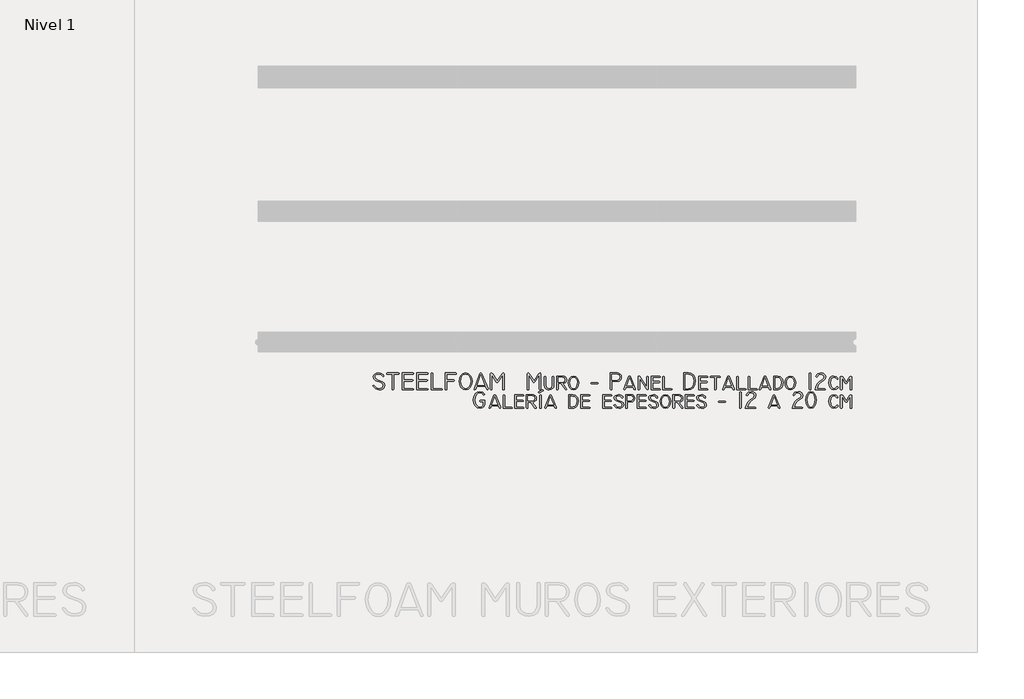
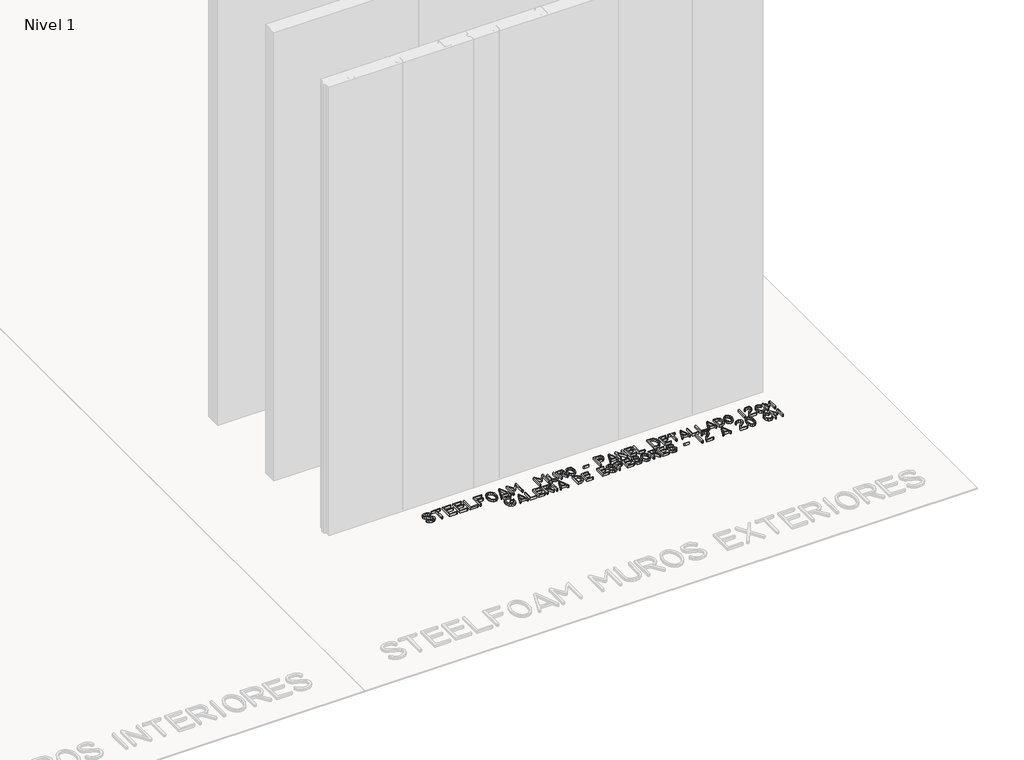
# One storey, part 5 of 6: 1 proxy.
"""IFC4 building model written with IfcOpenShell, lengths in millimetres."""

from ifc_helpers import new_model, si_unit, origin, origin_with_axes, place, context, project, spatial, polyline, outline, extrude, element, save

model = new_model("IFC4")

# Units and contexts
model_context = context("Model", 3, world=origin())
ifc_project = project(units=[si_unit("LENGTHUNIT", "METRE", prefix="MILLI")], contexts=[model_context])

# Site, building, storey
site = spatial("IfcSite", under=ifc_project)
building = spatial("IfcBuilding", under=site)
storey = spatial("IfcBuildingStorey", under=building, Name="Nivel 1", Elevation=0.0)

# Proxy
placement = place(None, origin())
element("IfcBuildingElementProxy", 1, Name="10cm", ObjectType="10cm", at=placement, inside=storey, context=model_context, shape_type="SweptSolid", body=[
    extrude(outline(polyline([(8667.4857479, -8169.8087474), (8665.1864436, -8182.0004074), (8658.2885307, -8190.708736), (8646.7920092, -8195.9337332), (8630.696879, -8197.6753989), (8611.1780007, -8191.9676242), (8596.1568978, -8176.3598549), (8595.5213426, -8173.9643007), (8600.1413401, -8170.6887469), (8603.5635604, -8172.0820795), (8615.7735538, -8185.3187389), (8630.5013236, -8189.8531809), (8642.5753448, -8188.5774872), (8651.1996457, -8184.7504059), (8656.3742262, -8178.3719372), (8658.0990864, -8169.4420809), (8654.4079772, -8159.4015308), (8643.3346499, -8151.6709795), (8613.7324438, -8140.6709854), (8601.2474506, -8131.1743239), (8597.0857862, -8118.4265531), (8599.045924, -8108.3737808), (8604.9263375, -8101.0221181), (8614.7270266, -8096.3715651), (8628.4479914, -8094.4221217), (8639.1913189, -8094.6421216), (8649.8124242, -8099.3110079), (8659.7857521, -8106.6504484), (8663.1101947, -8115.1265549), (8658.6857527, -8119.1354416), (8654.1879774, -8115.98211), (8644.8990935, -8105.6298934), (8629.1568799, -8102.2443397), (8612.1435558, -8106.8826705), (8607.8902248, -8111.8739178), (8606.4724478, -8118.646553), (8610.3102234, -8128.3265477), (8621.8235505, -8135.8554325), (8651.3524234, -8147.0754264), (8663.4524168, -8157.0243099), (8667.4857479, -8169.8087474)])), origin_with_axes(), (0.0, 0.0, 1.0), 20.0),
    extrude(outline(polyline([(8751.3790356, -8102.2443397), (8722.2412737, -8102.2443397), (8722.2412737, -8192.9820681), (8721.067941, -8196.5020662), (8717.5479429, -8197.6753989), (8714.0279448, -8196.5020662), (8712.8546121, -8192.9820681), (8712.8546121, -8102.2443397), (8684.4257387, -8102.2443397), (8681.1074072, -8101.071007), (8680.0012967, -8097.5510089), (8684.4746276, -8094.4221217), (8751.4034801, -8094.4221217), (8755.876811, -8097.5510089), (8754.7523671, -8101.071007), (8751.3790356, -8102.2443397)])), origin_with_axes(), (0.0, 0.0, 1.0), 20.0),
    extrude(outline(polyline([(8839.5745432, -8197.6753989), (8775.4323559, -8197.6753989), (8775.4323559, -8094.4221217), (8839.5745432, -8094.4221217), (8844.0478741, -8097.5510089), (8842.9356525, -8101.071007), (8839.5989877, -8102.2443397), (8784.8190175, -8102.2443397), (8784.8190175, -8136.6620987), (8836.3967672, -8136.6620987), (8840.8456537, -8139.7909859), (8839.733432, -8143.310984), (8836.3967672, -8144.4843167), (8784.8190175, -8144.4843167), (8784.8190175, -8189.8531809), (8839.5989877, -8189.8531809), (8844.0478741, -8192.9820681), (8842.9295414, -8196.5020662), (8839.5745432, -8197.6753989)])), origin_with_axes(), (0.0, 0.0, 1.0), 20.0),
    extrude(outline(polyline([(8928.7478281, -8197.6753989), (8864.6056407, -8197.6753989), (8864.6056407, -8094.4221217), (8928.7478281, -8094.4221217), (8933.221159, -8097.5510089), (8932.1089374, -8101.071007), (8928.7722725, -8102.2443397), (8873.9923023, -8102.2443397), (8873.9923023, -8136.6620987), (8925.570052, -8136.6620987), (8930.0189385, -8139.7909859), (8928.9067169, -8143.310984), (8925.570052, -8144.4843167), (8873.9923023, -8144.4843167), (8873.9923023, -8189.8531809), (8928.7722725, -8189.8531809), (8933.221159, -8192.9820681), (8932.1028263, -8196.5020662), (8928.7478281, -8197.6753989)])), origin_with_axes(), (0.0, 0.0, 1.0), 20.0),
    extrude(outline(polyline([(9016.3566694, -8197.6753989), (8952.214482, -8197.6753989), (8952.214482, -8097.5510089), (8956.9078128, -8094.4221217), (8961.6011436, -8097.5510089), (8961.6011436, -8189.8531809), (9016.3811138, -8189.8531809), (9020.8300003, -8192.9820681), (9019.7116675, -8196.5020662), (9016.3566694, -8197.6753989)])), origin_with_axes(), (0.0, 0.0, 1.0), 20.0),
    extrude(outline(polyline([(9102.4255115, -8102.2443397), (9047.6455412, -8102.2443397), (9047.6455412, -8136.6620987), (9090.0566293, -8136.6620987), (9094.5055158, -8139.7909859), (9093.3932941, -8143.310984), (9090.0566293, -8144.4843167), (9047.6455412, -8144.4843167), (9047.6455412, -8192.9820681), (9046.4722085, -8196.5020662), (9042.9522105, -8197.6753989), (9039.4322124, -8196.5020662), (9038.2588797, -8192.9820681), (9038.2588797, -8094.4221217), (9102.401067, -8094.4221217), (9106.8743979, -8097.5510089), (9105.7621763, -8101.071007), (9102.4255115, -8102.2443397)])), origin_with_axes(), (0.0, 0.0, 1.0), 20.0),
    extrude(outline(polyline([(9202.525457, -8145.7798715), (9200.0504584, -8165.0298611), (9192.6254624, -8181.2242967), (9179.8960249, -8193.5626233), (9163.7077004, -8197.6753989), (9147.4460425, -8193.5687345), (9134.4966051, -8181.2487412), (9126.8516093, -8164.9626389), (9124.3032773, -8145.7798715), (9126.6988316, -8127.0126595), (9133.8854943, -8110.6043351), (9146.0954877, -8098.467675), (9161.9477013, -8094.4221217), (9178.936581, -8098.467675), (9192.0143516, -8110.6043351), (9199.8976807, -8127.0493262), (9202.525457, -8145.7798715)]), holes=[polyline([(9193.1387955, -8145.7798715), (9191.1465743, -8129.4937693), (9185.1699109, -8115.8354434), (9174.9826942, -8105.6421156), (9161.9721457, -8102.2443397), (9150.0004856, -8105.6298934), (9140.8277128, -8115.7865545), (9135.4743824, -8129.3837694), (9133.6899389, -8145.7798715), (9135.6393823, -8162.530418), (9141.4877124, -8176.1154106), (9151.442707, -8186.4187383), (9163.7077004, -8189.8531809), (9175.9543604, -8186.4187383), (9185.7076884, -8176.1154106), (9191.2810187, -8162.5670846), (9193.1387955, -8145.7798715)])]), origin_with_axes(), (0.0, 0.0, 1.0), 20.0),
    extrude(outline(polyline([(9300.3765149, -8192.0776242), (9299.6187376, -8196.5753995), (9296.0254062, -8197.6753989), (9291.5276309, -8192.6887349), (9284.7076346, -8177.3376322), (9230.8809972, -8177.3376322), (9224.2076675, -8194.8398449), (9219.8565587, -8197.6753989), (9216.244894, -8196.5753995), (9215.0410058, -8193.2754013), (9251.1943195, -8097.9421198), (9257.2076495, -8094.4221217), (9263.2698685, -8098.0643419), (9300.3765149, -8192.0776242)]), holes=[polyline([(9281.7743028, -8169.5154142), (9257.2565384, -8105.1776714), (9233.76544, -8169.5154142), (9281.7743028, -8169.5154142)])]), origin_with_axes(), (0.0, 0.0, 1.0), 20.0),
    extrude(outline(polyline([(9399.6453499, -8192.9820681), (9398.4720172, -8196.5020662), (9394.9520191, -8197.6753989), (9391.432021, -8196.5020662), (9390.2586883, -8192.9820681), (9390.2586883, -8106.2043375), (9361.952037, -8149.6176472), (9356.8920398, -8152.893201), (9352.1009313, -8149.9109804), (9324.5520574, -8106.3510041), (9324.5520574, -8192.9820681), (9323.3787247, -8196.5020662), (9319.8587266, -8197.6753989), (9316.3387285, -8196.5020662), (9315.1653958, -8192.9820681), (9315.1653958, -8097.8198976), (9320.2009486, -8094.4221217), (9328.047611, -8099.4821189), (9356.9409286, -8141.5754294), (9386.4209126, -8099.7021188), (9394.3897972, -8094.4221217), (9399.6453499, -8098.2598974), (9399.6453499, -8192.9820681)])), origin_with_axes(), (0.0, 0.0, 1.0), 20.0),
    extrude(outline(polyline([(9624.9252274, -8192.9820681), (9623.7518947, -8196.5020662), (9620.2318966, -8197.6753989), (9616.7118985, -8196.5020662), (9615.5385658, -8192.9820681), (9615.5385658, -8106.2043375), (9587.2319145, -8149.6176472), (9582.1719173, -8152.893201), (9577.3808088, -8149.9109804), (9549.8319349, -8106.3510041), (9549.8319349, -8192.9820681), (9548.6586022, -8196.5020662), (9545.1386041, -8197.6753989), (9541.618606, -8196.5020662), (9540.4452733, -8192.9820681), (9540.4452733, -8097.8198976), (9545.4808261, -8094.4221217), (9553.3274885, -8099.4821189), (9582.2208062, -8141.5754294), (9611.7007901, -8099.7021188), (9619.6696747, -8094.4221217), (9624.9252274, -8098.2598974), (9624.9252274, -8192.9820681)])), origin_with_axes(), (0.0, 0.0, 1.0), 20.0),
    extrude(outline(polyline([(9704.7118507, -8169.0265256), (9702.9503239, -8180.8087414), (9697.6657434, -8189.5109589), (9688.8581093, -8195.133178), (9676.5274216, -8197.6753989), (9665.4113165, -8196.5692884), (9655.5785441, -8191.4909578), (9647.8418816, -8182.0981851), (9645.2629941, -8169.7598585), (9645.2629941, -8116.324332), (9649.9563249, -8113.1954448), (9654.6496557, -8116.324332), (9654.6496557, -8169.4665253), (9656.3729881, -8178.688187), (9661.5429853, -8185.3309612), (9675.8674219, -8189.8531809), (9690.4607473, -8183.962073), (9695.3251891, -8168.7331924), (9695.3251891, -8116.324332), (9700.0185199, -8113.1954448), (9704.7118507, -8116.324332), (9704.7118507, -8169.0265256)])), origin_with_axes(), (0.0, 0.0, 1.0), 20.0),
    extrude(outline(polyline([(9781.3695868, -8135.0976551), (9779.2551435, -8146.1343158), (9772.9118136, -8154.1643114), (9761.4962643, -8158.564309), (9757.1940444, -8158.393198), (9780.2940318, -8190.7820693), (9781.3695868, -8192.7131794), (9780.135143, -8196.434844), (9776.4318117, -8197.6753989), (9772.7162582, -8195.6954), (9747.2696053, -8158.564309), (9729.7429482, -8158.564309), (9729.7429482, -8192.9820681), (9728.5696155, -8196.5020662), (9725.0496174, -8197.6753989), (9721.5296193, -8196.5020662), (9720.3562866, -8192.9820681), (9720.3562866, -8113.1954448), (9756.8762668, -8113.1954448), (9766.3790394, -8114.5521107), (9773.7673687, -8118.6221085), (9779.4690323, -8126.0043267), (9781.3695868, -8135.0976551)]), holes=[polyline([(9771.9829252, -8135.0976551), (9767.4607055, -8124.5376609), (9756.778489, -8121.0176628), (9729.7429482, -8121.0176628), (9729.7429482, -8150.7420911), (9761.3984865, -8150.7420911), (9767.3140389, -8147.5887595), (9771.9829252, -8135.0976551)])]), origin_with_axes(), (0.0, 0.0, 1.0), 20.0),
    extrude(outline(polyline([(9856.4628793, -8154.7265333), (9854.4156582, -8170.3770804), (9848.2739949, -8183.8398509), (9837.7567783, -8194.2165119), (9824.3917856, -8197.6753989), (9811.0940151, -8194.2165119), (9800.4851319, -8183.8398509), (9794.3618019, -8170.2915249), (9792.3206919, -8154.5798668), (9794.4351352, -8139.6504304), (9800.7784651, -8126.3465488), (9811.0817928, -8116.4832208), (9824.3917856, -8113.1954448), (9838.1967781, -8116.4832208), (9848.567328, -8126.3465488), (9854.4889915, -8139.625986), (9856.4628793, -8154.7265333)]), holes=[polyline([(9847.0762177, -8154.7265333), (9845.6828851, -8142.1559846), (9841.5028874, -8131.6754348), (9834.1206692, -8123.6821058), (9824.3917856, -8121.0176628), (9815.0295685, -8123.6882169), (9807.6717947, -8131.6998792), (9803.1984638, -8142.2965401), (9801.7073535, -8154.7265333), (9803.1251305, -8167.8654151), (9807.3784615, -8178.5842982), (9815.0295685, -8187.0359602), (9824.3917856, -8189.8531809), (9833.7356694, -8187.0359602), (9841.3806653, -8178.5842982), (9845.6523296, -8167.8409707), (9847.0762177, -8154.7265333)])]), origin_with_axes(), (0.0, 0.0, 1.0), 20.0),
    extrude(outline(polyline([(9972.4517051, -8160.1287526), (9934.4650591, -8160.1287526), (9929.9917282, -8156.2176437), (9934.4650591, -8153.8709783), (9972.4517051, -8153.8709783), (9976.925036, -8156.2176437), (9972.4517051, -8160.1287526)])), origin_with_axes(), (0.0, 0.0, 1.0), 20.0),
    extrude(outline(polyline([(10117.7249595, -8120.06433), (10116.1971825, -8130.5387687), (10111.6138517, -8138.6420976), (10104.0177447, -8144.1970946), (10093.7938614, -8146.0487603), (10059.8405465, -8146.0487603), (10059.8405465, -8192.9820681), (10058.6672138, -8196.5020662), (10055.1472157, -8197.6753989), (10051.6272176, -8196.5020662), (10050.4538849, -8192.9820681), (10050.4538849, -8094.4221217), (10091.0071962, -8094.4221217), (10102.6962176, -8096.0247597), (10111.0455187, -8100.8326738), (10116.0550993, -8108.8458638), (10117.7249595, -8120.06433)]), holes=[polyline([(10108.3382979, -8120.0398855), (10103.9810781, -8106.6932261), (10090.9094185, -8102.2443397), (10059.8405465, -8102.2443397), (10059.8405465, -8138.2265423), (10093.5249726, -8138.2265423), (10104.3049668, -8133.4109894), (10108.3382979, -8120.0398855)])]), origin_with_axes(), (0.0, 0.0, 1.0), 20.0),
    extrude(outline(polyline([(10203.4271351, -8191.9309576), (10202.62658, -8196.5509551), (10198.9049153, -8197.6753989), (10194.6760287, -8194.6931783), (10189.6404759, -8182.0309629), (10147.35161, -8182.0309629), (10142.5360571, -8194.6442894), (10138.3316149, -8197.6753989), (10134.6099503, -8196.5509551), (10133.3693954, -8193.1776236), (10163.0693793, -8115.7865545), (10167.9827099, -8113.1954448), (10173.0182627, -8115.7621101), (10203.4271351, -8191.9309576)]), holes=[polyline([(10186.6582553, -8174.208745), (10168.1049321, -8125.2221049), (10150.2849418, -8174.208745), (10186.6582553, -8174.208745)])]), origin_with_axes(), (0.0, 0.0, 1.0), 20.0),
    extrude(outline(polyline([(10281.9915368, -8192.9820681), (10277.9337613, -8197.6753989), (10272.4826531, -8194.6442894), (10228.8004546, -8128.3021033), (10228.8004546, -8192.9820681), (10227.6271219, -8196.5020662), (10224.1071239, -8197.6753989), (10220.5871258, -8196.5020662), (10219.4137931, -8192.9820681), (10219.4137931, -8115.8354434), (10223.4471242, -8113.1954448), (10228.6537881, -8115.5421102), (10272.6048753, -8181.7865186), (10272.6048753, -8116.1287766), (10277.2982061, -8113.1954448), (10281.9915368, -8116.1287766), (10281.9915368, -8192.9820681)])), origin_with_axes(), (0.0, 0.0, 1.0), 20.0),
    extrude(outline(polyline([(10351.3892769, -8197.6753989), (10299.2004164, -8197.6753989), (10299.2004164, -8113.1954448), (10351.3892769, -8113.1954448), (10355.8626078, -8116.324332), (10354.7503862, -8119.8443301), (10351.4137213, -8121.0176628), (10308.5870779, -8121.0176628), (10308.5870779, -8146.0487603), (10348.7981672, -8146.0487603), (10353.2470536, -8149.1776475), (10352.134832, -8152.6976456), (10348.7981672, -8153.8709783), (10308.5870779, -8153.8709783), (10308.5870779, -8189.8531809), (10351.4137213, -8189.8531809), (10355.8626078, -8192.9820681), (10354.7442751, -8196.5020662), (10351.3892769, -8197.6753989)])), origin_with_axes(), (0.0, 0.0, 1.0), 20.0),
    extrude(outline(polyline([(10423.3536822, -8197.6753989), (10371.1648217, -8197.6753989), (10371.1648217, -8116.324332), (10375.8581525, -8113.1954448), (10380.5514833, -8116.324332), (10380.5514833, -8189.8531809), (10423.3781266, -8189.8531809), (10427.8270131, -8192.9820681), (10426.7086804, -8196.5020662), (10423.3536822, -8197.6753989)])), origin_with_axes(), (0.0, 0.0, 1.0), 20.0),
    extrude(outline(polyline([(10571.4136017, -8141.893207), (10567.7591592, -8166.9609711), (10556.7958319, -8185.3554056), (10543.4613947, -8194.5954006), (10527.4136256, -8197.6753989), (10501.01364, -8197.6753989), (10501.01364, -8094.4221217), (10527.266959, -8094.4221217), (10543.3880614, -8097.2026757), (10556.746943, -8105.5443379), (10567.746937, -8121.3904404), (10571.4136017, -8141.893207)]), holes=[polyline([(10562.0269401, -8141.8198737), (10559.1363862, -8124.4643276), (10550.4647242, -8111.4110013), (10539.8130633, -8104.5360051), (10527.4136256, -8102.2443397), (10510.4003015, -8102.2443397), (10510.4003015, -8189.8531809), (10527.5602922, -8189.8531809), (10539.8191744, -8187.194849), (10550.5380575, -8179.2198534), (10559.1547195, -8163.6609729), (10562.0269401, -8141.8198737)])]), origin_with_axes(), (0.0, 0.0, 1.0), 20.0),
    extrude(outline(polyline([(10642.3757854, -8197.6753989), (10590.1869248, -8197.6753989), (10590.1869248, -8113.1954448), (10642.3757854, -8113.1954448), (10646.8491163, -8116.324332), (10645.7368946, -8119.8443301), (10642.4002298, -8121.0176628), (10599.5735864, -8121.0176628), (10599.5735864, -8146.0487603), (10639.7846756, -8146.0487603), (10644.2335621, -8149.1776475), (10643.1213405, -8152.6976456), (10639.7846756, -8153.8709783), (10599.5735864, -8153.8709783), (10599.5735864, -8189.8531809), (10642.4002298, -8189.8531809), (10646.8491163, -8192.9820681), (10645.7307835, -8196.5020662), (10642.3757854, -8197.6753989)])), origin_with_axes(), (0.0, 0.0, 1.0), 20.0),
    extrude(outline(polyline([(10720.2801874, -8121.0176628), (10698.1335328, -8121.0176628), (10698.1335328, -8192.9820681), (10696.9602001, -8196.5020662), (10693.440202, -8197.6753989), (10689.9202039, -8196.5020662), (10688.7468713, -8192.9820681), (10688.7468713, -8121.0176628), (10666.6002166, -8121.0176628), (10663.2635518, -8119.8443301), (10662.1513302, -8116.324332), (10666.6246611, -8113.1954448), (10720.255743, -8113.1954448), (10724.7290739, -8116.324332), (10723.6168523, -8119.8443301), (10720.2801874, -8121.0176628)])), origin_with_axes(), (0.0, 0.0, 1.0), 20.0),
    extrude(outline(polyline([(10808.8668059, -8191.9309576), (10808.0662508, -8196.5509551), (10804.3445862, -8197.6753989), (10800.1156996, -8194.6931783), (10795.0801468, -8182.0309629), (10752.7912809, -8182.0309629), (10747.9757279, -8194.6442894), (10743.7712858, -8197.6753989), (10740.0496211, -8196.5509551), (10738.8090663, -8193.1776236), (10768.5090501, -8115.7865545), (10773.4223808, -8113.1954448), (10778.4579336, -8115.7621101), (10808.8668059, -8191.9309576)]), holes=[polyline([(10792.0979262, -8174.208745), (10773.5446029, -8125.2221049), (10755.7246126, -8174.208745), (10792.0979262, -8174.208745)])]), origin_with_axes(), (0.0, 0.0, 1.0), 20.0),
    extrude(outline(polyline([(10877.0423244, -8197.6753989), (10824.8534639, -8197.6753989), (10824.8534639, -8116.324332), (10829.5467947, -8113.1954448), (10834.2401255, -8116.324332), (10834.2401255, -8189.8531809), (10877.0667689, -8189.8531809), (10881.5156553, -8192.9820681), (10880.3973226, -8196.5020662), (10877.0423244, -8197.6753989)])), origin_with_axes(), (0.0, 0.0, 1.0), 20.0),
    extrude(outline(polyline([(10945.8778426, -8197.6753989), (10893.6889821, -8197.6753989), (10893.6889821, -8116.324332), (10898.3823128, -8113.1954448), (10903.0756436, -8116.324332), (10903.0756436, -8189.8531809), (10945.902287, -8189.8531809), (10950.3511735, -8192.9820681), (10949.2328407, -8196.5020662), (10945.8778426, -8197.6753989)])), origin_with_axes(), (0.0, 0.0, 1.0), 20.0),
    extrude(outline(polyline([(11032.5822399, -8191.9309576), (11031.7816848, -8196.5509551), (11028.0600201, -8197.6753989), (11023.8311335, -8194.6931783), (11018.7955807, -8182.0309629), (10976.5067148, -8182.0309629), (10971.6911619, -8194.6442894), (10967.4867197, -8197.6753989), (10963.7650551, -8196.5509551), (10962.5245002, -8193.1776236), (10992.224484, -8115.7865545), (10997.1378147, -8113.1954448), (11002.1733675, -8115.7621101), (11032.5822399, -8191.9309576)]), holes=[polyline([(11015.8133601, -8174.208745), (10997.2600369, -8125.2221049), (10979.4400465, -8174.208745), (11015.8133601, -8174.208745)])]), origin_with_axes(), (0.0, 0.0, 1.0), 20.0),
    extrude(outline(polyline([(11108.0177544, -8152.4043124), (11105.9949777, -8170.8231913), (11099.9266477, -8184.0354063), (11091.3344302, -8191.6009577), (11079.1488812, -8196.0131776), (11050.1333414, -8197.6753989), (11050.1333414, -8113.1954448), (11075.451661, -8114.4298886), (11090.588875, -8118.1332199), (11103.6605346, -8130.893213), (11108.0177544, -8152.4043124)]), holes=[polyline([(11098.6310929, -8152.0620904), (11095.4777612, -8135.0487663), (11086.0177664, -8125.1243272), (11059.520003, -8121.3354404), (11059.520003, -8188.7287371), (11075.3233278, -8187.5676266), (11085.9199887, -8184.0842952), (11095.4533168, -8172.4365237), (11098.6310929, -8152.0620904)])]), origin_with_axes(), (0.0, 0.0, 1.0), 20.0),
    extrude(outline(polyline([(11184.6754905, -8154.7265333), (11182.6282694, -8170.3770804), (11176.4866061, -8183.8398509), (11165.9693896, -8194.2165119), (11152.6043968, -8197.6753989), (11139.3066263, -8194.2165119), (11128.6977432, -8183.8398509), (11122.5744132, -8170.2915249), (11120.5333032, -8154.5798668), (11122.6477465, -8139.6504304), (11128.9910764, -8126.3465488), (11139.2944041, -8116.4832208), (11152.6043968, -8113.1954448), (11166.4093893, -8116.4832208), (11176.7799393, -8126.3465488), (11182.7016027, -8139.625986), (11184.6754905, -8154.7265333)]), holes=[polyline([(11175.288829, -8154.7265333), (11173.8954964, -8142.1559846), (11169.7154987, -8131.6754348), (11162.3332804, -8123.6821058), (11152.6043968, -8121.0176628), (11143.2421797, -8123.6882169), (11135.8844059, -8131.6998792), (11131.411075, -8142.2965401), (11129.9199647, -8154.7265333), (11131.3377417, -8167.8654151), (11135.5910728, -8178.5842982), (11143.2421797, -8187.0359602), (11152.6043968, -8189.8531809), (11161.9482807, -8187.0359602), (11169.5932765, -8178.5842982), (11173.8649408, -8167.8409707), (11175.288829, -8154.7265333)])]), origin_with_axes(), (0.0, 0.0, 1.0), 20.0),
    extrude(outline(polyline([(11278.5421062, -8193.1531791), (11277.3687735, -8196.5448439), (11273.8487754, -8197.6753989), (11270.3287773, -8196.5448439), (11269.1554446, -8193.1531791), (11269.1554446, -8097.3798979), (11273.8487754, -8094.4221217), (11278.5421062, -8097.3798979), (11278.5421062, -8193.1531791)])), origin_with_axes(), (0.0, 0.0, 1.0), 20.0),
    extrude(outline(polyline([(11363.7309487, -8197.6753989), (11305.1376473, -8197.6753989), (11310.0020891, -8179.3420755), (11321.5154161, -8157.6598651), (11333.0837432, -8145.9876492), (11348.8687346, -8135.5620993), (11357.1370634, -8128.0637701), (11359.893173, -8117.742109), (11355.2487311, -8107.0354482), (11341.8776273, -8102.2443397), (11327.7243016, -8105.0310048), (11318.4843067, -8116.5443319), (11314.5731977, -8119.2821082), (11311.0898662, -8118.139331), (11309.9287558, -8114.7109995), (11321.9126381, -8099.3232301), (11341.2909609, -8094.4221217), (11353.1403989, -8096.1271208), (11362.044283, -8101.242118), (11367.4709467, -8108.5998918), (11369.2798346, -8116.9843316), (11365.2831701, -8130.9482129), (11353.2931766, -8141.6487627), (11335.9804083, -8153.8832005), (11324.5220812, -8167.804304), (11316.6998632, -8189.8531809), (11363.7309487, -8189.8531809), (11368.2042796, -8192.9820681), (11367.0859469, -8196.5020662), (11363.7309487, -8197.6753989)])), origin_with_axes(), (0.0, 0.0, 1.0), 20.0),
    extrude(outline(polyline([(11445.3509044, -8184.3531839), (11432.9942444, -8194.7665116), (11418.7309188, -8197.6753989), (11406.3712033, -8194.6442894), (11396.572042, -8185.550961), (11390.1828788, -8171.5259687), (11388.0531577, -8153.6998672), (11390.5892675, -8135.4948771), (11398.1975967, -8121.99544), (11407.3214806, -8115.3954436), (11418.7064744, -8113.1954448), (11433.9109106, -8116.4709986), (11443.4686832, -8126.8598818), (11444.1286828, -8128.3754366), (11442.9797945, -8131.8221014), (11439.5331297, -8132.9709896), (11435.8420206, -8130.6976575), (11429.0220243, -8123.4376615), (11419.2198075, -8121.0176628), (11411.3670339, -8122.7715507), (11404.8220375, -8128.0332145), (11399.2853738, -8138.8743197), (11397.4398193, -8153.6998672), (11399.1020406, -8168.3634704), (11404.0887046, -8179.8920752), (11411.202034, -8187.3629045), (11419.2442519, -8189.8531809), (11429.3948019, -8187.2681823), (11438.3353526, -8179.5131865), (11441.8797951, -8178.3887427), (11446.4753482, -8181.4442966), (11445.3509044, -8184.3531839)])), origin_with_axes(), (0.0, 0.0, 1.0), 20.0),
    extrude(outline(polyline([(11528.8530812, -8192.9820681), (11527.6980818, -8196.5020662), (11524.2330837, -8197.6753989), (11520.6580856, -8196.5020662), (11519.4664196, -8192.9820681), (11519.4664196, -8124.5376609), (11499.5442082, -8158.3687536), (11494.6308776, -8161.057641), (11489.3997693, -8157.879865), (11469.4042246, -8124.5376609), (11469.4042246, -8192.9820681), (11468.2308919, -8196.5020662), (11464.7108938, -8197.6753989), (11461.1908957, -8196.5020662), (11460.0175631, -8192.9820681), (11460.0175631, -8116.5932207), (11465.0775603, -8113.1954448), (11472.4353341, -8116.9109984), (11494.5819887, -8150.0820914), (11516.4597546, -8116.8865539), (11523.7686395, -8113.1954448), (11528.8530812, -8116.8621095), (11528.8530812, -8192.9820681)])), origin_with_axes(), (0.0, 0.0, 1.0), 20.0),
    extrude(outline(polyline([(9280.7476367, -8272.3754126), (9279.4215263, -8289.1687368), (9275.4431952, -8300.6331751), (9266.1482002, -8308.9748372), (9251.6098748, -8311.7553912), (9234.8532172, -8307.5509491), (9221.1521136, -8294.9376226), (9213.0487846, -8278.5904093), (9210.347675, -8260.1531971), (9213.1893401, -8239.1676529), (9221.7143355, -8222.3621065), (9234.1443287, -8211.9671122), (9250.1676534, -8208.502114), (9269.3565318, -8213.3421114), (9278.5231935, -8223.3398837), (9279.3787486, -8225.2954382), (9274.9298621, -8229.7443247), (9271.1654197, -8227.5932148), (9264.0520902, -8219.5021081), (9250.3632088, -8216.324332), (9238.101271, -8219.2943304), (9228.3021097, -8228.2043255), (9221.8762798, -8242.1315402), (9219.7343366, -8260.1531971), (9221.8976687, -8276.0298551), (9228.3876652, -8289.633181), (9239.2287704, -8300.3581752), (9252.0987634, -8303.9331733), (9263.3187573, -8300.627064), (9269.9431982, -8290.708736), (9271.8987527, -8269.5154142), (9254.1032068, -8269.5154142), (9250.6198753, -8268.3420815), (9249.4587648, -8264.8220834), (9254.005429, -8261.6931962), (9280.7476367, -8261.6931962), (9280.7476367, -8272.3754126)])), origin_with_axes(), (0.0, 0.0, 1.0), 20.0),
    extrude(outline(polyline([(9377.4009175, -8306.0109499), (9376.6003624, -8310.6309474), (9372.8786978, -8311.7553912), (9368.6498112, -8308.7731706), (9363.6142583, -8296.1109553), (9321.3253924, -8296.1109553), (9316.5098395, -8308.7242818), (9312.3053973, -8311.7553912), (9308.5837327, -8310.6309474), (9307.3431778, -8307.2576159), (9337.0431617, -8229.8665469), (9341.9564923, -8227.2754372), (9346.9920452, -8229.8421024), (9377.4009175, -8306.0109499)]), holes=[polyline([(9360.6320377, -8288.2887373), (9342.0787145, -8239.3020973), (9324.2587242, -8288.2887373), (9360.6320377, -8288.2887373)])]), origin_with_axes(), (0.0, 0.0, 1.0), 20.0),
    extrude(outline(polyline([(9445.576436, -8311.7553912), (9393.3875755, -8311.7553912), (9393.3875755, -8230.4043244), (9398.0809063, -8227.2754372), (9402.7742371, -8230.4043244), (9402.7742371, -8303.9331733), (9445.6008804, -8303.9331733), (9450.0497669, -8307.0620605), (9448.9314342, -8310.5820585), (9445.576436, -8311.7553912)])), origin_with_axes(), (0.0, 0.0, 1.0), 20.0),
    extrude(outline(polyline([(9515.9763977, -8311.7553912), (9463.7875372, -8311.7553912), (9463.7875372, -8227.2754372), (9515.9763977, -8227.2754372), (9520.4497286, -8230.4043244), (9519.337507, -8233.9243224), (9516.0008422, -8235.0976551), (9473.1741988, -8235.0976551), (9473.1741988, -8260.1287526), (9513.385288, -8260.1287526), (9517.8341745, -8263.2576398), (9516.7219529, -8266.7776379), (9513.385288, -8267.9509706), (9473.1741988, -8267.9509706), (9473.1741988, -8303.9331733), (9516.0008422, -8303.9331733), (9520.4497286, -8307.0620605), (9519.3313959, -8310.5820585), (9515.9763977, -8311.7553912)])), origin_with_axes(), (0.0, 0.0, 1.0), 20.0),
    extrude(outline(polyline([(9596.7652427, -8249.1776475), (9594.6507994, -8260.2143081), (9588.3074695, -8268.2443038), (9576.8919202, -8272.6443014), (9572.5897003, -8272.4731904), (9595.6896877, -8304.8620616), (9596.7652427, -8306.7931717), (9595.5307989, -8310.5148364), (9591.8274676, -8311.7553912), (9588.1119141, -8309.7753923), (9562.6652612, -8272.6443014), (9545.1386041, -8272.6443014), (9545.1386041, -8307.0620605), (9543.9652714, -8310.5820585), (9540.4452733, -8311.7553912), (9536.9252752, -8310.5820585), (9535.7519425, -8307.0620605), (9535.7519425, -8227.2754372), (9572.2719227, -8227.2754372), (9581.7746953, -8228.6321031), (9589.1630246, -8232.7021009), (9594.8646882, -8240.0843191), (9596.7652427, -8249.1776475)]), holes=[polyline([(9587.3785811, -8249.1776475), (9582.8563614, -8238.6176532), (9572.174145, -8235.0976551), (9545.1386041, -8235.0976551), (9545.1386041, -8264.8220834), (9576.7941424, -8264.8220834), (9582.7096948, -8261.6687518), (9587.3785811, -8249.1776475)])]), origin_with_axes(), (0.0, 0.0, 1.0), 20.0),
    extrude(outline(polyline([(9638.3696645, -8203.73545), (9615.9052323, -8216.3732209), (9613.9496778, -8216.3487764), (9610.448013, -8215.1937771), (9609.2807915, -8211.7287789), (9610.8696795, -8209.7732245), (9632.7230009, -8197.5265644), (9635.729666, -8195.9865653), (9640.2029969, -8199.65323), (9638.3696645, -8203.73545)])), origin_with_axes(), (0.0, 0.0, 1.0), 20.0),
    extrude(outline(polyline([(9626.489671, -8307.0620605), (9625.3163383, -8310.5820585), (9621.7963402, -8311.7553912), (9618.2763421, -8310.5820585), (9617.1030094, -8307.0620605), (9617.1030094, -8230.2087689), (9621.7963402, -8227.2754372), (9626.489671, -8230.2087689), (9626.489671, -8307.0620605)])), origin_with_axes(), (0.0, 0.0, 1.0), 20.0),
    extrude(outline(polyline([(9718.449621, -8306.0109499), (9717.6490659, -8310.6309474), (9713.9274012, -8311.7553912), (9709.6985146, -8308.7731706), (9704.6629618, -8296.1109553), (9662.3740959, -8296.1109553), (9657.558543, -8308.7242818), (9653.3541008, -8311.7553912), (9649.6324362, -8310.6309474), (9648.3918813, -8307.2576159), (9678.0918652, -8229.8665469), (9683.0051958, -8227.2754372), (9688.0407486, -8229.8421024), (9718.449621, -8306.0109499)]), holes=[polyline([(9701.6807412, -8288.2887373), (9683.127418, -8239.3020973), (9665.3074277, -8288.2887373), (9701.6807412, -8288.2887373)])]), origin_with_axes(), (0.0, 0.0, 1.0), 20.0),
    extrude(outline(polyline([(9853.3339921, -8266.4843047), (9851.3112154, -8284.9031836), (9845.2428854, -8298.1153986), (9836.6506678, -8305.6809501), (9824.4651189, -8310.0931699), (9795.4495791, -8311.7553912), (9795.4495791, -8227.2754372), (9820.7678987, -8228.5098809), (9835.9051127, -8232.2132123), (9848.9767722, -8244.9732053), (9853.3339921, -8266.4843047)]), holes=[polyline([(9843.9473305, -8266.1420827), (9840.7939989, -8249.1287586), (9831.3340041, -8239.2043196), (9804.8362407, -8235.4154327), (9804.8362407, -8302.8087294), (9820.6395654, -8301.647619), (9831.2362263, -8298.1642875), (9840.7695545, -8286.5165161), (9843.9473305, -8266.1420827)])]), origin_with_axes(), (0.0, 0.0, 1.0), 20.0),
    extrude(outline(polyline([(9921.1672886, -8311.7553912), (9868.978428, -8311.7553912), (9868.978428, -8227.2754372), (9921.1672886, -8227.2754372), (9925.6406195, -8230.4043244), (9924.5283978, -8233.9243224), (9921.191733, -8235.0976551), (9878.3650896, -8235.0976551), (9878.3650896, -8260.1287526), (9918.5761789, -8260.1287526), (9923.0250653, -8263.2576398), (9921.9128437, -8266.7776379), (9918.5761789, -8267.9509706), (9878.3650896, -8267.9509706), (9878.3650896, -8303.9331733), (9921.191733, -8303.9331733), (9925.6406195, -8307.0620605), (9924.5222867, -8310.5820585), (9921.1672886, -8311.7553912)])), origin_with_axes(), (0.0, 0.0, 1.0), 20.0),
    extrude(outline(polyline([(10054.144994, -8311.7553912), (10001.9561335, -8311.7553912), (10001.9561335, -8227.2754372), (10054.144994, -8227.2754372), (10058.6183249, -8230.4043244), (10057.5061033, -8233.9243224), (10054.1694385, -8235.0976551), (10011.3427951, -8235.0976551), (10011.3427951, -8260.1287526), (10051.5538843, -8260.1287526), (10056.0027708, -8263.2576398), (10054.8905492, -8266.7776379), (10051.5538843, -8267.9509706), (10011.3427951, -8267.9509706), (10011.3427951, -8303.9331733), (10054.1694385, -8303.9331733), (10058.6183249, -8307.0620605), (10057.4999922, -8310.5820585), (10054.144994, -8311.7553912)])), origin_with_axes(), (0.0, 0.0, 1.0), 20.0),
    extrude(outline(polyline([(10131.8049518, -8288.4842928), (10129.9013417, -8298.6653984), (10124.1905115, -8305.9376166), (10114.6724611, -8310.3009476), (10101.3471906, -8311.7553912), (10085.2871993, -8307.2759492), (10072.9916505, -8293.8376232), (10072.3560952, -8291.5887355), (10076.9760927, -8288.2642929), (10080.3738687, -8289.6576255), (10089.6749747, -8300.4131752), (10101.1271907, -8303.9331733), (10117.0955154, -8299.9670643), (10121.0875965, -8295.0094281), (10122.4182903, -8288.0687374), (10119.4177363, -8280.160964), (10110.4160746, -8274.0865228), (10086.2649766, -8265.1887499), (10075.8333156, -8257.427643), (10072.3560952, -8247.0020931), (10074.0167888, -8238.7658476), (10078.9988694, -8232.7326564), (10098.9271919, -8227.2754372), (10108.0449647, -8227.3304371), (10116.9182932, -8231.2109906), (10125.351622, -8237.1509873), (10128.1627316, -8243.9709836), (10123.8116228, -8247.9309815), (10119.4116252, -8245.0954275), (10112.029407, -8237.5909871), (10099.5627471, -8235.0976551), (10086.1977544, -8238.4954311), (10081.7427568, -8247.3687596), (10084.7433107, -8255.0993109), (10093.7449725, -8260.9354189), (10118.4827368, -8270.3465249), (10128.4743981, -8278.3154094), (10131.8049518, -8288.4842928)])), origin_with_axes(), (0.0, 0.0, 1.0), 20.0),
    extrude(outline(polyline([(10199.0760264, -8248.7620921), (10193.9426958, -8264.8220834), (10187.7215881, -8269.5154142), (10179.324926, -8271.0798578), (10153.7071621, -8271.0798578), (10153.7071621, -8307.0620605), (10152.5338294, -8310.5820585), (10149.0138314, -8311.7553912), (10145.4938333, -8310.5820585), (10144.3205006, -8307.0620605), (10144.3205006, -8227.2754372), (10177.1249272, -8227.2754372), (10186.7285331, -8228.6183531), (10193.5882516, -8232.6471009), (10197.7040827, -8239.3616806), (10199.0760264, -8248.7620921)]), holes=[polyline([(10189.6893648, -8248.7620921), (10186.5176999, -8238.5137644), (10177.002705, -8235.0976551), (10153.7071621, -8235.0976551), (10153.7071621, -8263.2576398), (10178.9582595, -8263.2576398), (10186.6704775, -8259.4320863), (10189.6893648, -8248.7620921)])]), origin_with_axes(), (0.0, 0.0, 1.0), 20.0),
    extrude(outline(polyline([(10266.9093228, -8311.7553912), (10214.7204623, -8311.7553912), (10214.7204623, -8227.2754372), (10266.9093228, -8227.2754372), (10271.3826537, -8230.4043244), (10270.2704321, -8233.9243224), (10266.9337672, -8235.0976551), (10224.1071239, -8235.0976551), (10224.1071239, -8260.1287526), (10264.3182131, -8260.1287526), (10268.7670996, -8263.2576398), (10267.654878, -8266.7776379), (10264.3182131, -8267.9509706), (10224.1071239, -8267.9509706), (10224.1071239, -8303.9331733), (10266.9337672, -8303.9331733), (10271.3826537, -8307.0620605), (10270.264321, -8310.5820585), (10266.9093228, -8311.7553912)])), origin_with_axes(), (0.0, 0.0, 1.0), 20.0),
    extrude(outline(polyline([(10344.5692806, -8288.4842928), (10342.6656705, -8298.6653984), (10336.9548403, -8305.9376166), (10327.4367899, -8310.3009476), (10314.1115194, -8311.7553912), (10298.0515281, -8307.2759492), (10285.7559792, -8293.8376232), (10285.120424, -8291.5887355), (10289.7404215, -8288.2642929), (10293.1381974, -8289.6576255), (10302.4393035, -8300.4131752), (10313.8915195, -8303.9331733), (10329.8598441, -8299.9670643), (10333.8519253, -8295.0094281), (10335.182619, -8288.0687374), (10332.1820651, -8280.160964), (10323.1804033, -8274.0865228), (10299.0293053, -8265.1887499), (10288.5976444, -8257.427643), (10285.120424, -8247.0020931), (10286.7811176, -8238.7658476), (10291.7631982, -8232.7326564), (10311.6915207, -8227.2754372), (10320.8092935, -8227.3304371), (10329.682622, -8231.2109906), (10338.1159508, -8237.1509873), (10340.9270603, -8243.9709836), (10336.5759516, -8247.9309815), (10332.175954, -8245.0954275), (10324.7937358, -8237.5909871), (10312.3270759, -8235.0976551), (10298.9620832, -8238.4954311), (10294.5070856, -8247.3687596), (10297.5076395, -8255.0993109), (10306.5093013, -8260.9354189), (10331.2470656, -8270.3465249), (10341.2387268, -8278.3154094), (10344.5692806, -8288.4842928)])), origin_with_axes(), (0.0, 0.0, 1.0), 20.0),
    extrude(outline(polyline([(10419.6625731, -8268.8065257), (10417.615352, -8284.4570727), (10411.4736887, -8297.9198432), (10400.9564722, -8308.2965042), (10387.5914794, -8311.7553912), (10374.2937089, -8308.2965042), (10363.6848258, -8297.9198432), (10357.5614957, -8284.3715172), (10355.5203857, -8268.6598591), (10357.634829, -8253.7304228), (10363.9781589, -8240.4265411), (10374.2814867, -8230.5632132), (10387.5914794, -8227.2754372), (10401.3964719, -8230.5632132), (10411.7670218, -8240.4265411), (10417.6886853, -8253.7059783), (10419.6625731, -8268.8065257)]), holes=[polyline([(10410.2759115, -8268.8065257), (10408.882579, -8256.235977), (10404.7025812, -8245.7554271), (10397.320363, -8237.7620981), (10387.5914794, -8235.0976551), (10378.2292623, -8237.7682092), (10370.8714885, -8245.7798715), (10366.3981576, -8256.3765325), (10364.9070473, -8268.8065257), (10366.3248243, -8281.9454074), (10370.5781553, -8292.6642905), (10378.2292623, -8301.1159526), (10387.5914794, -8303.9331733), (10396.9353632, -8301.1159526), (10404.5803591, -8292.6642905), (10408.8520234, -8281.920963), (10410.2759115, -8268.8065257)])]), origin_with_axes(), (0.0, 0.0, 1.0), 20.0),
    extrude(outline(polyline([(10494.7558656, -8249.1776475), (10492.6414223, -8260.2143081), (10486.2980924, -8268.2443038), (10474.8825431, -8272.6443014), (10470.5803232, -8272.4731904), (10493.6803106, -8304.8620616), (10494.7558656, -8306.7931717), (10493.5214218, -8310.5148364), (10489.8180905, -8311.7553912), (10486.102537, -8309.7753923), (10460.6558841, -8272.6443014), (10443.129227, -8272.6443014), (10443.129227, -8307.0620605), (10441.9558943, -8310.5820585), (10438.4358962, -8311.7553912), (10434.9158981, -8310.5820585), (10433.7425654, -8307.0620605), (10433.7425654, -8227.2754372), (10470.2625456, -8227.2754372), (10479.7653182, -8228.6321031), (10487.1536475, -8232.7021009), (10492.8553111, -8240.0843191), (10494.7558656, -8249.1776475)]), holes=[polyline([(10485.369204, -8249.1776475), (10480.8469843, -8238.6176532), (10470.1647679, -8235.0976551), (10443.129227, -8235.0976551), (10443.129227, -8264.8220834), (10474.7847654, -8264.8220834), (10480.7003177, -8261.6687518), (10485.369204, -8249.1776475)])]), origin_with_axes(), (0.0, 0.0, 1.0), 20.0),
    extrude(outline(polyline([(10561.0247185, -8311.7553912), (10508.835858, -8311.7553912), (10508.835858, -8227.2754372), (10561.0247185, -8227.2754372), (10565.4980494, -8230.4043244), (10564.3858278, -8233.9243224), (10561.0491629, -8235.0976551), (10518.2225195, -8235.0976551), (10518.2225195, -8260.1287526), (10558.4336088, -8260.1287526), (10562.8824952, -8263.2576398), (10561.7702736, -8266.7776379), (10558.4336088, -8267.9509706), (10518.2225195, -8267.9509706), (10518.2225195, -8303.9331733), (10561.0491629, -8303.9331733), (10565.4980494, -8307.0620605), (10564.3797166, -8310.5820585), (10561.0247185, -8311.7553912)])), origin_with_axes(), (0.0, 0.0, 1.0), 20.0),
    extrude(outline(polyline([(10638.6846762, -8288.4842928), (10636.7810662, -8298.6653984), (10631.0702359, -8305.9376166), (10621.5521856, -8310.3009476), (10608.226915, -8311.7553912), (10592.1669238, -8307.2759492), (10579.8713749, -8293.8376232), (10579.2358197, -8291.5887355), (10583.8558172, -8288.2642929), (10587.2535931, -8289.6576255), (10596.5546992, -8300.4131752), (10608.0069151, -8303.9331733), (10623.9752398, -8299.9670643), (10627.967321, -8295.0094281), (10629.2980147, -8288.0687374), (10626.2974608, -8280.160964), (10617.295799, -8274.0865228), (10593.144701, -8265.1887499), (10582.71304, -8257.427643), (10579.2358197, -8247.0020931), (10580.8965132, -8238.7658476), (10585.8785938, -8232.7326564), (10605.8069163, -8227.2754372), (10614.9246892, -8227.3304371), (10623.7980177, -8231.2109906), (10632.2313464, -8237.1509873), (10635.042456, -8243.9709836), (10630.6913473, -8247.9309815), (10626.2913497, -8245.0954275), (10618.9091314, -8237.5909871), (10606.4424716, -8235.0976551), (10593.0774788, -8238.4954311), (10588.6224812, -8247.3687596), (10591.6230352, -8255.0993109), (10600.6246969, -8260.9354189), (10625.3624613, -8270.3465249), (10635.3541225, -8278.3154094), (10638.6846762, -8288.4842928)])), origin_with_axes(), (0.0, 0.0, 1.0), 20.0),
    extrude(outline(polyline([(10753.1090585, -8274.208745), (10715.1224125, -8274.208745), (10710.6490816, -8270.297636), (10715.1224125, -8267.9509706), (10753.1090585, -8267.9509706), (10757.5823894, -8270.297636), (10753.1090585, -8274.208745)])), origin_with_axes(), (0.0, 0.0, 1.0), 20.0),
    extrude(outline(polyline([(10851.449005, -8307.2331715), (10850.2756723, -8310.6248363), (10846.7556742, -8311.7553912), (10843.2356762, -8310.6248363), (10842.0623435, -8307.2331715), (10842.0623435, -8211.4598902), (10846.7556742, -8208.502114), (10851.449005, -8211.4598902), (10851.449005, -8307.2331715)])), origin_with_axes(), (0.0, 0.0, 1.0), 20.0),
    extrude(outline(polyline([(10936.6378476, -8311.7553912), (10878.0445461, -8311.7553912), (10882.9089879, -8293.4220679), (10894.422315, -8271.7398574), (10905.990642, -8260.0676416), (10921.7756335, -8249.6420917), (10930.0439623, -8242.1437624), (10932.8000719, -8231.8221014), (10928.15563, -8221.1154405), (10914.7845261, -8216.324332), (10900.6312005, -8219.1109972), (10891.3912055, -8230.6243242), (10887.4800965, -8233.3621005), (10883.9967651, -8232.2193234), (10882.8356546, -8228.7909919), (10894.819537, -8213.4032225), (10914.1978598, -8208.502114), (10926.0472978, -8210.2071131), (10934.9511818, -8215.3221103), (10940.3778456, -8222.6798841), (10942.1867335, -8231.064324), (10938.190069, -8245.0282053), (10926.2000755, -8255.728755), (10908.8873071, -8267.9631928), (10897.42898, -8281.8842964), (10889.6067621, -8303.9331733), (10936.6378476, -8303.9331733), (10941.1111785, -8307.0620605), (10939.9928458, -8310.5820585), (10936.6378476, -8311.7553912)])), origin_with_axes(), (0.0, 0.0, 1.0), 20.0),
    extrude(outline(polyline([(11088.9022093, -8306.0109499), (11088.1016541, -8310.6309474), (11084.3799895, -8311.7553912), (11080.1511029, -8308.7731706), (11075.1155501, -8296.1109553), (11032.8266842, -8296.1109553), (11028.0111313, -8308.7242818), (11023.8066891, -8311.7553912), (11020.0850244, -8310.6309474), (11018.8444696, -8307.2576159), (11048.5444534, -8229.8665469), (11053.4577841, -8227.2754372), (11058.4933369, -8229.8421024), (11088.9022093, -8306.0109499)]), holes=[polyline([(11072.1333295, -8288.2887373), (11053.5800062, -8239.3020973), (11035.7600159, -8288.2887373), (11072.1333295, -8288.2887373)])]), origin_with_axes(), (0.0, 0.0, 1.0), 20.0),
    extrude(outline(polyline([(11222.9310253, -8311.7553912), (11164.3377238, -8311.7553912), (11169.2021656, -8293.4220679), (11180.7154927, -8271.7398574), (11192.2838197, -8260.0676416), (11208.0688111, -8249.6420917), (11216.33714, -8242.1437624), (11219.0932496, -8231.8221014), (11214.4488077, -8221.1154405), (11201.0777038, -8216.324332), (11186.9243782, -8219.1109972), (11177.6843832, -8230.6243242), (11173.7732742, -8233.3621005), (11170.2899428, -8232.2193234), (11169.1288323, -8228.7909919), (11181.1127147, -8213.4032225), (11200.4910375, -8208.502114), (11212.3404755, -8210.2071131), (11221.2443595, -8215.3221103), (11226.6710232, -8222.6798841), (11228.4799112, -8231.064324), (11224.4832467, -8245.0282053), (11212.4932532, -8255.728755), (11195.1804848, -8267.9631928), (11183.7221577, -8281.8842964), (11175.8999397, -8303.9331733), (11222.9310253, -8303.9331733), (11227.4043562, -8307.0620605), (11226.2860235, -8310.5820585), (11222.9310253, -8311.7553912)])), origin_with_axes(), (0.0, 0.0, 1.0), 20.0),
    extrude(outline(polyline([(11311.3954216, -8259.4198641), (11309.3909783, -8278.7554092), (11303.3776482, -8295.0598448), (11292.8054317, -8307.5815046), (11279.324328, -8311.7553912), (11265.8248908, -8307.5815046), (11255.2465633, -8295.0598448), (11249.2515665, -8278.7798536), (11247.2532343, -8259.4198641), (11249.2882332, -8240.591541), (11255.3932299, -8224.3909943), (11265.6415576, -8212.4743341), (11279.324328, -8208.502114), (11293.0254316, -8212.4743341), (11303.3776482, -8224.3909943), (11309.3909783, -8240.6159855), (11311.3954216, -8259.4198641)]), holes=[polyline([(11302.0087601, -8259.2731975), (11300.4504276, -8243.0970952), (11295.7754301, -8229.3287694), (11288.399323, -8219.5754413), (11279.324328, -8216.324332), (11270.2432218, -8219.612108), (11262.8487814, -8229.475436), (11258.1921172, -8243.2070952), (11256.6398958, -8259.4198641), (11258.1921172, -8276.1520773), (11262.8487814, -8290.0731808), (11270.4509994, -8300.4681751), (11279.324328, -8303.9331733), (11288.1793231, -8300.4315085), (11295.7754301, -8289.9265142), (11300.4504276, -8275.9809662), (11302.0087601, -8259.2731975)])]), origin_with_axes(), (0.0, 0.0, 1.0), 20.0),
    extrude(outline(polyline([(11445.3509044, -8298.4331763), (11432.9942444, -8308.8465039), (11418.7309188, -8311.7553912), (11406.3712033, -8308.7242818), (11396.572042, -8299.6309534), (11390.1828788, -8285.605961), (11388.0531577, -8267.7798596), (11390.5892675, -8249.5748695), (11398.1975967, -8236.0754324), (11407.3214806, -8229.475436), (11418.7064744, -8227.2754372), (11433.9109106, -8230.5509909), (11443.4686832, -8240.9398742), (11444.1286828, -8242.4554289), (11442.9797945, -8245.9020937), (11439.5331297, -8247.050982), (11435.8420206, -8244.7776499), (11429.0220243, -8237.5176538), (11419.2198075, -8235.0976551), (11411.3670339, -8236.8515431), (11404.8220375, -8242.1132069), (11399.2853738, -8252.9543121), (11397.4398193, -8267.7798596), (11399.1020406, -8282.4434627), (11404.0887046, -8293.9720676), (11411.202034, -8301.4428968), (11419.2442519, -8303.9331733), (11429.3948019, -8301.3481747), (11438.3353526, -8293.5931789), (11441.8797951, -8292.4687351), (11446.4753482, -8295.5242889), (11445.3509044, -8298.4331763)])), origin_with_axes(), (0.0, 0.0, 1.0), 20.0),
    extrude(outline(polyline([(11528.8530812, -8307.0620605), (11527.6980818, -8310.5820585), (11524.2330837, -8311.7553912), (11520.6580856, -8310.5820585), (11519.4664196, -8307.0620605), (11519.4664196, -8238.6176532), (11499.5442082, -8272.4487459), (11494.6308776, -8275.1376334), (11489.3997693, -8271.9598573), (11469.4042246, -8238.6176532), (11469.4042246, -8307.0620605), (11468.2308919, -8310.5820585), (11464.7108938, -8311.7553912), (11461.1908957, -8310.5820585), (11460.0175631, -8307.0620605), (11460.0175631, -8230.6732131), (11465.0775603, -8227.2754372), (11472.4353341, -8230.9909907), (11494.5819887, -8264.1620838), (11516.4597546, -8230.9665463), (11523.7686395, -8227.2754372), (11528.8530812, -8230.9421018), (11528.8530812, -8307.0620605)])), origin_with_axes(), (0.0, 0.0, 1.0), 20.0),
])

save(model, "model.ifc")
